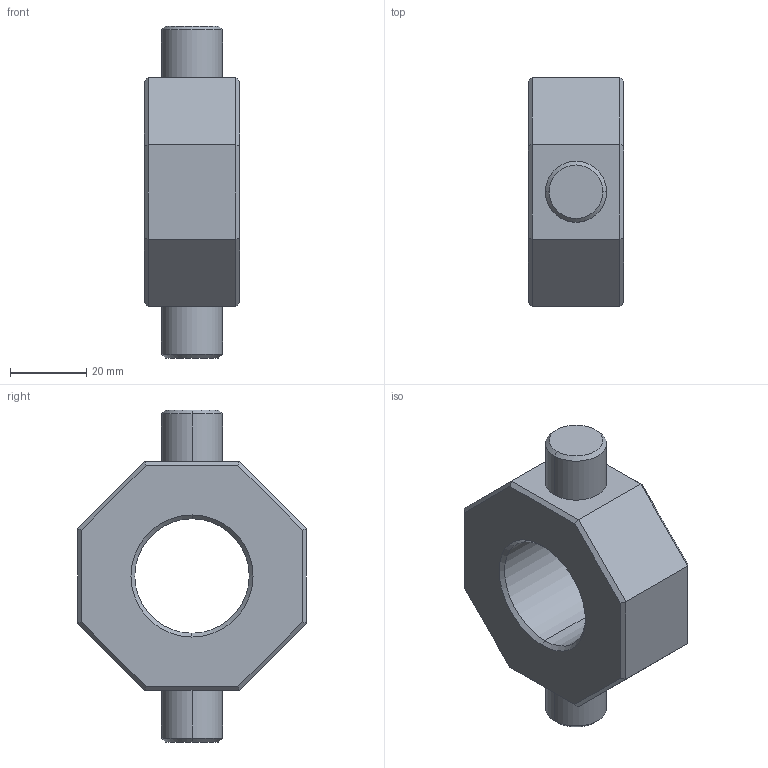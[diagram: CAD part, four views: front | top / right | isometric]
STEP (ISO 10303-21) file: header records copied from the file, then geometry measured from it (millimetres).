
FILE_DESCRIPTION (( 'STEP AP214' ), '1' );
FILE_NAME ('LB-KA-30.STEP', '2025-04-08T06:29:16', ( '' ), ( '' ), 'SwSTEP 2.0', 'SolidWorks 2023', '' );
FILE_SCHEMA (( 'AUTOMOTIVE_DESIGN' ));
Length unit declared in the file: millimetre
Products named in the file (1): LB-KA-30
Bounding box: 25 x 60 x 87 mm (x, y, z)
Volume: 59899.9 mm3; surface area: 14425 mm2
Topology: 1 solids, 1 shells, 78 faces, 174 edges, 94 vertices
Faces by surface type: cone 32, plane 28, cylinder 18
Entity records: 2053 total; most frequent: DIRECTION 376, CARTESIAN_POINT 335, ORIENTED_EDGE 324, EDGE_CURVE 162, AXIS2_PLACEMENT_3D 135, VECTOR 106, LINE 106, VERTEX_POINT 94
